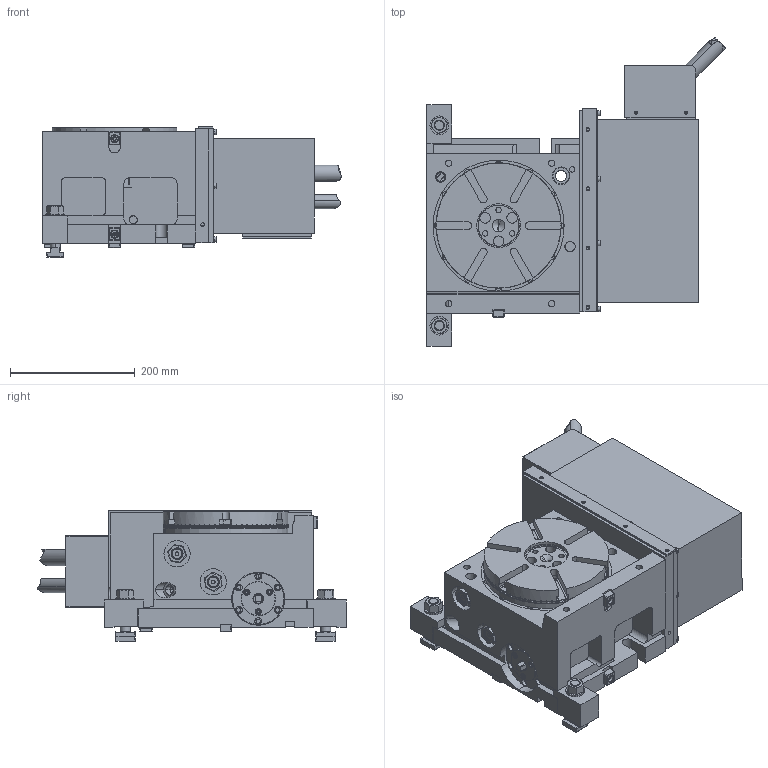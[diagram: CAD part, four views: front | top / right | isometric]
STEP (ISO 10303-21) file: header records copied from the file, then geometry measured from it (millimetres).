
FILE_DESCRIPTION (( 'STEP AP203' ), '1' );
FILE_NAME ('1509868 MT200R-1-33.STEP', '2020-12-05T05:33:12', ( '' ), ( '' ), 'SwSTEP 2.0', 'SolidWorks 2019', '' );
FILE_SCHEMA (( 'CONFIG_CONTROL_DESIGN' ));
Products named in the file (1): 1509868 MT200R-1-33
Bounding box: 477.91 x 494.21 x 208.8 mm (x, y, z)
Surface area: 981058.5 mm2 (no closed solid volume)
Topology: 0 solids, 156 shells, 1166 faces, 5562 edges, 4513 vertices
Faces by surface type: plane 612, cylinder 413, cone 86, torus 31, bspline 24
Entity records: 61041 total; most frequent: CARTESIAN_POINT 16406, DIRECTION 9583, ORIENTED_EDGE 7602, EDGE_CURVE 5551, VERTEX_POINT 4513, AXIS2_PLACEMENT_3D 3228, VECTOR 3127, LINE 3127
